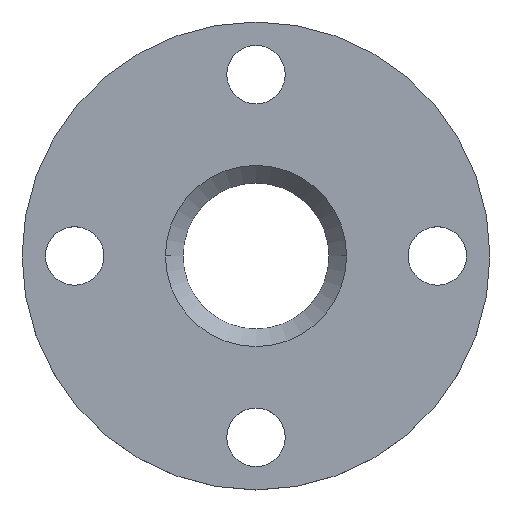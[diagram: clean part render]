
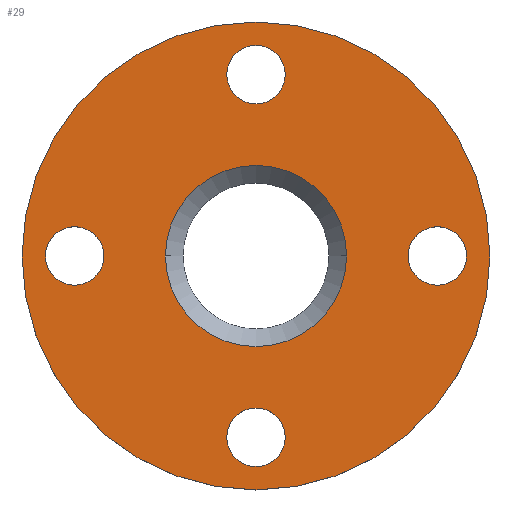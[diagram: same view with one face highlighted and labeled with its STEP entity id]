
A CAD part, top view. The second image highlights one B-rep face of the part: STEP entity #29.
In plain terms, the highlighted planar face has unit normal (0, 0, 1).
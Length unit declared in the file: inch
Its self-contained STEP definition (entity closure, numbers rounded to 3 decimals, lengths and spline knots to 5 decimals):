
#15 = CIRCLE ( 'NONE', #526, 0.3125 ) ;
#19 = CIRCLE ( 'NONE', #303, 0.3125 ) ;
#28 = CIRCLE ( 'NONE', #378, 2.5 ) ;
#29 = ADVANCED_FACE ( 'NONE', ( #199, #572, #286, #389, #239, #374 ), #152, .T. ) ;
#38 = CIRCLE ( 'NONE', #58, 0.968 ) ;
#48 = DIRECTION ( 'NONE',  ( 0., 0., 1. ) ) ;
#56 = VERTEX_POINT ( 'NONE', #145 ) ;
#58 = AXIS2_PLACEMENT_3D ( 'NONE', #162, #176, #556 ) ;
#63 = CARTESIAN_POINT ( 'NONE',  ( 1.9375, 0., 0. ) ) ;
#65 = ORIENTED_EDGE ( 'NONE', *, *, #261, .T. ) ;
#70 = AXIS2_PLACEMENT_3D ( 'NONE', #241, #422, #187 ) ;
#75 = ORIENTED_EDGE ( 'NONE', *, *, #326, .T. ) ;
#82 = CARTESIAN_POINT ( 'NONE',  ( 0., 0., 0. ) ) ;
#87 = CARTESIAN_POINT ( 'NONE',  ( -0.968, 0., 0. ) ) ;
#93 = ORIENTED_EDGE ( 'NONE', *, *, #320, .F. ) ;
#107 = ORIENTED_EDGE ( 'NONE', *, *, #255, .T. ) ;
#117 = EDGE_LOOP ( 'NONE', ( #75, #65 ) ) ;
#118 = EDGE_CURVE ( 'NONE', #231, #456, #329, .T. ) ;
#121 = DIRECTION ( 'NONE',  ( 1., 0., 0. ) ) ;
#125 = DIRECTION ( 'NONE',  ( 0., 0., -1. ) ) ;
#134 = VERTEX_POINT ( 'NONE', #527 ) ;
#138 = AXIS2_PLACEMENT_3D ( 'NONE', #501, #169, #170 ) ;
#145 = CARTESIAN_POINT ( 'NONE',  ( 1.625, 0., 0. ) ) ;
#148 = EDGE_CURVE ( 'NONE', #56, #505, #371, .T. ) ;
#149 = ORIENTED_EDGE ( 'NONE', *, *, #257, .F. ) ;
#152 = PLANE ( 'NONE',  #70 ) ;
#154 = CIRCLE ( 'NONE', #323, 0.3125 ) ;
#162 = CARTESIAN_POINT ( 'NONE',  ( 0., 0., 0. ) ) ;
#168 = CARTESIAN_POINT ( 'NONE',  ( -1.9375, 0., 0. ) ) ;
#169 = DIRECTION ( 'NONE',  ( 0., 0., 1. ) ) ;
#170 = DIRECTION ( 'NONE',  ( 1., 0., 0. ) ) ;
#171 = CARTESIAN_POINT ( 'NONE',  ( -1.9375, 0., 0. ) ) ;
#175 = VERTEX_POINT ( 'NONE', #392 ) ;
#176 = DIRECTION ( 'NONE',  ( 0., 0., -1. ) ) ;
#187 = DIRECTION ( 'NONE',  ( 1., 0., 0. ) ) ;
#190 = EDGE_CURVE ( 'NONE', #175, #492, #205, .T. ) ;
#199 = FACE_BOUND ( 'NONE', #510, .T. ) ;
#205 = CIRCLE ( 'NONE', #419, 0.3125 ) ;
#206 = CARTESIAN_POINT ( 'NONE',  ( 0., 1.9375, 0. ) ) ;
#231 = VERTEX_POINT ( 'NONE', #450 ) ;
#235 = AXIS2_PLACEMENT_3D ( 'NONE', #294, #444, #405 ) ;
#239 = FACE_BOUND ( 'NONE', #427, .T. ) ;
#241 = CARTESIAN_POINT ( 'NONE',  ( 0., 0., 0. ) ) ;
#243 = ORIENTED_EDGE ( 'NONE', *, *, #118, .F. ) ;
#255 = EDGE_CURVE ( 'NONE', #611, #315, #38, .T. ) ;
#256 = CARTESIAN_POINT ( 'NONE',  ( 2.25, 0., 0. ) ) ;
#257 = EDGE_CURVE ( 'NONE', #456, #231, #411, .T. ) ;
#261 = EDGE_CURVE ( 'NONE', #416, #134, #28, .T. ) ;
#269 = DIRECTION ( 'NONE',  ( 0., 0., 1. ) ) ;
#272 = ORIENTED_EDGE ( 'NONE', *, *, #622, .F. ) ;
#277 = AXIS2_PLACEMENT_3D ( 'NONE', #282, #472, #413 ) ;
#282 = CARTESIAN_POINT ( 'NONE',  ( 0., 0., 0. ) ) ;
#285 = EDGE_LOOP ( 'NONE', ( #410, #327 ) ) ;
#286 = FACE_BOUND ( 'NONE', #601, .T. ) ;
#292 = AXIS2_PLACEMENT_3D ( 'NONE', #310, #125, #542 ) ;
#293 = DIRECTION ( 'NONE',  ( 1., 0., 0. ) ) ;
#294 = CARTESIAN_POINT ( 'NONE',  ( 0., -1.9375, 0. ) ) ;
#303 = AXIS2_PLACEMENT_3D ( 'NONE', #171, #269, #455 ) ;
#310 = CARTESIAN_POINT ( 'NONE',  ( 0., 0., 0. ) ) ;
#315 = VERTEX_POINT ( 'NONE', #87 ) ;
#316 = DIRECTION ( 'NONE',  ( 0., 0., 1. ) ) ;
#319 = CARTESIAN_POINT ( 'NONE',  ( 0., 1.9375, 0. ) ) ;
#320 = EDGE_CURVE ( 'NONE', #520, #356, #154, .T. ) ;
#323 = AXIS2_PLACEMENT_3D ( 'NONE', #319, #463, #459 ) ;
#326 = EDGE_CURVE ( 'NONE', #134, #416, #452, .T. ) ;
#327 = ORIENTED_EDGE ( 'NONE', *, *, #148, .F. ) ;
#328 = ORIENTED_EDGE ( 'NONE', *, *, #606, .T. ) ;
#329 = CIRCLE ( 'NONE', #235, 0.3125 ) ;
#333 = DIRECTION ( 'NONE',  ( 1., 0., 0. ) ) ;
#344 = DIRECTION ( 'NONE',  ( 0., 0., 1. ) ) ;
#346 = ORIENTED_EDGE ( 'NONE', *, *, #424, .F. ) ;
#351 = AXIS2_PLACEMENT_3D ( 'NONE', #63, #398, #395 ) ;
#356 = VERTEX_POINT ( 'NONE', #358 ) ;
#358 = CARTESIAN_POINT ( 'NONE',  ( 0.3125, 1.9375, 0. ) ) ;
#371 = CIRCLE ( 'NONE', #351, 0.3125 ) ;
#374 = FACE_OUTER_BOUND ( 'NONE', #117, .T. ) ;
#378 = AXIS2_PLACEMENT_3D ( 'NONE', #82, #316, #121 ) ;
#380 = CIRCLE ( 'NONE', #292, 0.968 ) ;
#389 = FACE_BOUND ( 'NONE', #285, .T. ) ;
#391 = CARTESIAN_POINT ( 'NONE',  ( -2.5, 0., 0. ) ) ;
#392 = CARTESIAN_POINT ( 'NONE',  ( -1.625, 0., 0. ) ) ;
#395 = DIRECTION ( 'NONE',  ( 1., 0., 0. ) ) ;
#398 = DIRECTION ( 'NONE',  ( 0., 0., 1. ) ) ;
#400 = CARTESIAN_POINT ( 'NONE',  ( -0.3125, -1.9375, 0. ) ) ;
#403 = CARTESIAN_POINT ( 'NONE',  ( -2.25, 0., 0. ) ) ;
#405 = DIRECTION ( 'NONE',  ( 1., 0., 0. ) ) ;
#410 = ORIENTED_EDGE ( 'NONE', *, *, #430, .F. ) ;
#411 = CIRCLE ( 'NONE', #138, 0.3125 ) ;
#413 = DIRECTION ( 'NONE',  ( 1., 0., 0. ) ) ;
#416 = VERTEX_POINT ( 'NONE', #391 ) ;
#419 = AXIS2_PLACEMENT_3D ( 'NONE', #168, #344, #434 ) ;
#422 = DIRECTION ( 'NONE',  ( 0., 0., 1. ) ) ;
#424 = EDGE_CURVE ( 'NONE', #356, #520, #15, .T. ) ;
#427 = EDGE_LOOP ( 'NONE', ( #346, #93 ) ) ;
#430 = EDGE_CURVE ( 'NONE', #505, #56, #610, .T. ) ;
#434 = DIRECTION ( 'NONE',  ( 1., 0., 0. ) ) ;
#444 = DIRECTION ( 'NONE',  ( 0., 0., 1. ) ) ;
#450 = CARTESIAN_POINT ( 'NONE',  ( 0.3125, -1.9375, 0. ) ) ;
#452 = CIRCLE ( 'NONE', #277, 2.5 ) ;
#455 = DIRECTION ( 'NONE',  ( 1., 0., 0. ) ) ;
#456 = VERTEX_POINT ( 'NONE', #400 ) ;
#459 = DIRECTION ( 'NONE',  ( 1., 0., 0. ) ) ;
#463 = DIRECTION ( 'NONE',  ( 0., 0., 1. ) ) ;
#468 = EDGE_LOOP ( 'NONE', ( #593, #272 ) ) ;
#472 = DIRECTION ( 'NONE',  ( 0., 0., 1. ) ) ;
#492 = VERTEX_POINT ( 'NONE', #403 ) ;
#501 = CARTESIAN_POINT ( 'NONE',  ( 0., -1.9375, 0. ) ) ;
#505 = VERTEX_POINT ( 'NONE', #256 ) ;
#510 = EDGE_LOOP ( 'NONE', ( #107, #328 ) ) ;
#520 = VERTEX_POINT ( 'NONE', #523 ) ;
#523 = CARTESIAN_POINT ( 'NONE',  ( -0.3125, 1.9375, 0. ) ) ;
#526 = AXIS2_PLACEMENT_3D ( 'NONE', #206, #48, #333 ) ;
#527 = CARTESIAN_POINT ( 'NONE',  ( 2.5, 0., 0. ) ) ;
#542 = DIRECTION ( 'NONE',  ( 1., 0., 0. ) ) ;
#548 = CARTESIAN_POINT ( 'NONE',  ( 0.968, 0., 0. ) ) ;
#556 = DIRECTION ( 'NONE',  ( 1., 0., 0. ) ) ;
#571 = CARTESIAN_POINT ( 'NONE',  ( 1.9375, 0., 0. ) ) ;
#572 = FACE_BOUND ( 'NONE', #468, .T. ) ;
#578 = DIRECTION ( 'NONE',  ( 0., 0., 1. ) ) ;
#593 = ORIENTED_EDGE ( 'NONE', *, *, #190, .F. ) ;
#601 = EDGE_LOOP ( 'NONE', ( #243, #149 ) ) ;
#602 = AXIS2_PLACEMENT_3D ( 'NONE', #571, #578, #293 ) ;
#606 = EDGE_CURVE ( 'NONE', #315, #611, #380, .T. ) ;
#610 = CIRCLE ( 'NONE', #602, 0.3125 ) ;
#611 = VERTEX_POINT ( 'NONE', #548 ) ;
#622 = EDGE_CURVE ( 'NONE', #492, #175, #19, .T. ) ;
